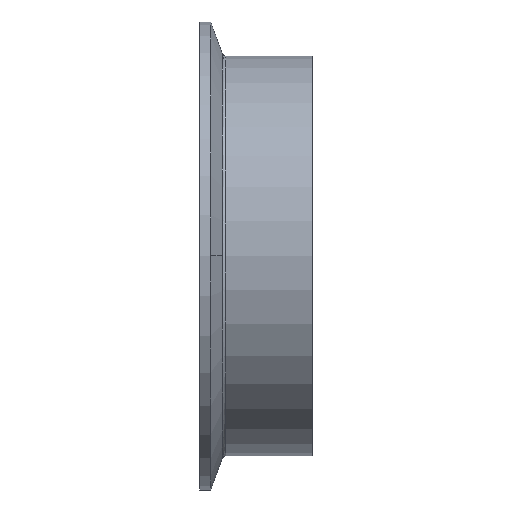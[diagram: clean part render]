
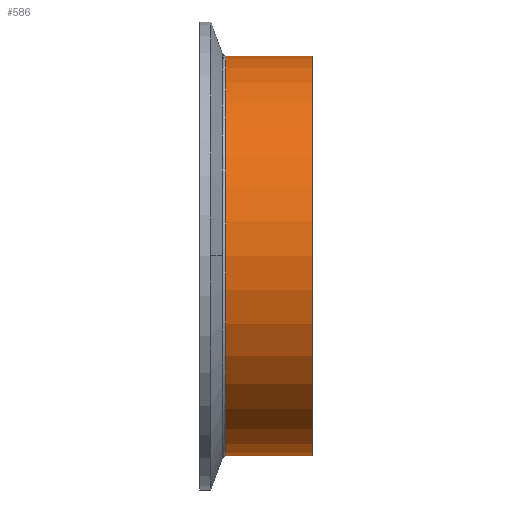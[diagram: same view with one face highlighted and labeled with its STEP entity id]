
A CAD part, top view. The second image highlights one B-rep face of the part: STEP entity #586.
In plain terms, the highlighted cylindrical face has radius 50.8 mm (diameter 101.6 mm), a partial arc.
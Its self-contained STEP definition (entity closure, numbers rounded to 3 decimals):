
#5 = CARTESIAN_POINT ( 'NONE',  ( 45.786, 50.8, 0. ) ) ;
#9 = CIRCLE ( 'NONE', #1355, 50.8 ) ;
#56 = LINE ( 'NONE', #5, #88 ) ;
#88 = VECTOR ( 'NONE', #175, 1000. ) ;
#175 = DIRECTION ( 'NONE',  ( 1., 0., 0. ) ) ;
#208 = AXIS2_PLACEMENT_3D ( 'NONE', #281, #1144, #404 ) ;
#217 = CARTESIAN_POINT ( 'NONE',  ( 0., 50.8, 0. ) ) ;
#254 = CARTESIAN_POINT ( 'NONE',  ( 45.786, 0., 0. ) ) ;
#257 = FACE_OUTER_BOUND ( 'NONE', #1364, .T. ) ;
#263 = CARTESIAN_POINT ( 'NONE',  ( -22.062, 50.8, 0. ) ) ;
#281 = CARTESIAN_POINT ( 'NONE',  ( -22.062, 0., 0. ) ) ;
#367 = EDGE_CURVE ( 'NONE', #1255, #1525, #56, .T. ) ;
#401 = LINE ( 'NONE', #950, #654 ) ;
#404 = DIRECTION ( 'NONE',  ( 0., 1., 0. ) ) ;
#586 = ADVANCED_FACE ( 'NONE', ( #257 ), #1502, .T. ) ;
#654 = VECTOR ( 'NONE', #827, 1000. ) ;
#676 = ORIENTED_EDGE ( 'NONE', *, *, #367, .F. ) ;
#685 = DIRECTION ( 'NONE',  ( 1., 0., 0. ) ) ;
#726 = ORIENTED_EDGE ( 'NONE', *, *, #1373, .T. ) ;
#791 = DIRECTION ( 'NONE',  ( 0., 1., 0. ) ) ;
#816 = VERTEX_POINT ( 'NONE', #1262 ) ;
#827 = DIRECTION ( 'NONE',  ( 1., 0., 0. ) ) ;
#837 = ORIENTED_EDGE ( 'NONE', *, *, #1556, .T. ) ;
#850 = VERTEX_POINT ( 'NONE', #895 ) ;
#894 = EDGE_CURVE ( 'NONE', #1525, #850, #9, .T. ) ;
#895 = CARTESIAN_POINT ( 'NONE',  ( 0., -50.8, 0. ) ) ;
#950 = CARTESIAN_POINT ( 'NONE',  ( 45.786, -50.8, 0. ) ) ;
#1048 = CIRCLE ( 'NONE', #208, 50.8 ) ;
#1144 = DIRECTION ( 'NONE',  ( 1., 0., 0. ) ) ;
#1231 = CARTESIAN_POINT ( 'NONE',  ( 0., 0., 0. ) ) ;
#1249 = DIRECTION ( 'NONE',  ( 1., 0., 0. ) ) ;
#1254 = DIRECTION ( 'NONE',  ( 0., 1., 0. ) ) ;
#1255 = VERTEX_POINT ( 'NONE', #263 ) ;
#1262 = CARTESIAN_POINT ( 'NONE',  ( -22.062, -50.8, 0. ) ) ;
#1355 = AXIS2_PLACEMENT_3D ( 'NONE', #1231, #1249, #1254 ) ;
#1364 = EDGE_LOOP ( 'NONE', ( #726, #837, #1438, #676 ) ) ;
#1373 = EDGE_CURVE ( 'NONE', #1255, #816, #1048, .T. ) ;
#1438 = ORIENTED_EDGE ( 'NONE', *, *, #894, .F. ) ;
#1502 = CYLINDRICAL_SURFACE ( 'NONE', #1548, 50.8 ) ;
#1525 = VERTEX_POINT ( 'NONE', #217 ) ;
#1548 = AXIS2_PLACEMENT_3D ( 'NONE', #254, #685, #791 ) ;
#1556 = EDGE_CURVE ( 'NONE', #816, #850, #401, .T. ) ;
